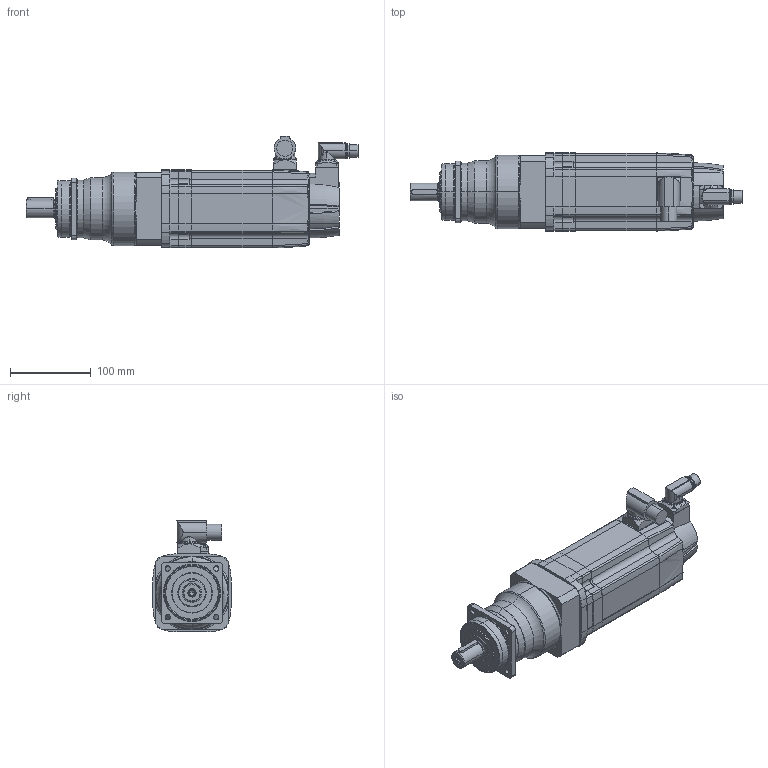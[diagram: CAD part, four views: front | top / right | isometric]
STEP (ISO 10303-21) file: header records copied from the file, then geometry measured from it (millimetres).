
FILE_DESCRIPTION(('STEP AP214'),'1');
FILE_NAME('cctmp_B953336C-DC2F-4F54-A576-810A6E91EAAF_2023_12_04_05_14_54_0298..stp','2023-12-04T05:14:54',('SIEMENS A&D'),('CADClick - www.CADClick.com'),'Spatial InterOp 3D',' ','unknown authorization');
FILE_SCHEMA(('AUTOMOTIVE_DESIGN'));
Length unit declared in the file: millimetre
Products named in the file (7): cc_unnamed; 2023_12_04_05_14_54_0283; 2023_12_04_05_14_54_0251; 2023_12_04_05_14_54_0220; 2023_12_04_05_14_54_0189; 2023_12_04_05_14_54_0158; 2023_12_04_05_14_54_0142
Assembly tree (6 placements, depth 2):
  cc_unnamed
    2023_12_04_05_14_54_0283
    2023_12_04_05_14_54_0251
    2023_12_04_05_14_54_0220
    2023_12_04_05_14_54_0189
    2023_12_04_05_14_54_0158
    2023_12_04_05_14_54_0142
Bounding box: 410.4 x 96.5 x 138.15 mm (x, y, z)
Volume: 2303959.3 mm3; surface area: 235761.7 mm2
Topology: 7 solids, 7 shells, 672 faces, 1784 edges, 1130 vertices
Faces by surface type: cylinder 286, plane 262, cone 52, torus 48, bspline 18, sphere 6
Entity records: 30246 total; most frequent: CARTESIAN_POINT 6191, DIRECTION 3652, ORIENTED_EDGE 3486, EDGE_CURVE 1743, AXIS2_PLACEMENT_3D 1398, VERTEX_POINT 1130, STYLED_ITEM 1013, PRESENTATION_STYLE_ASSIGNMENT 1013
